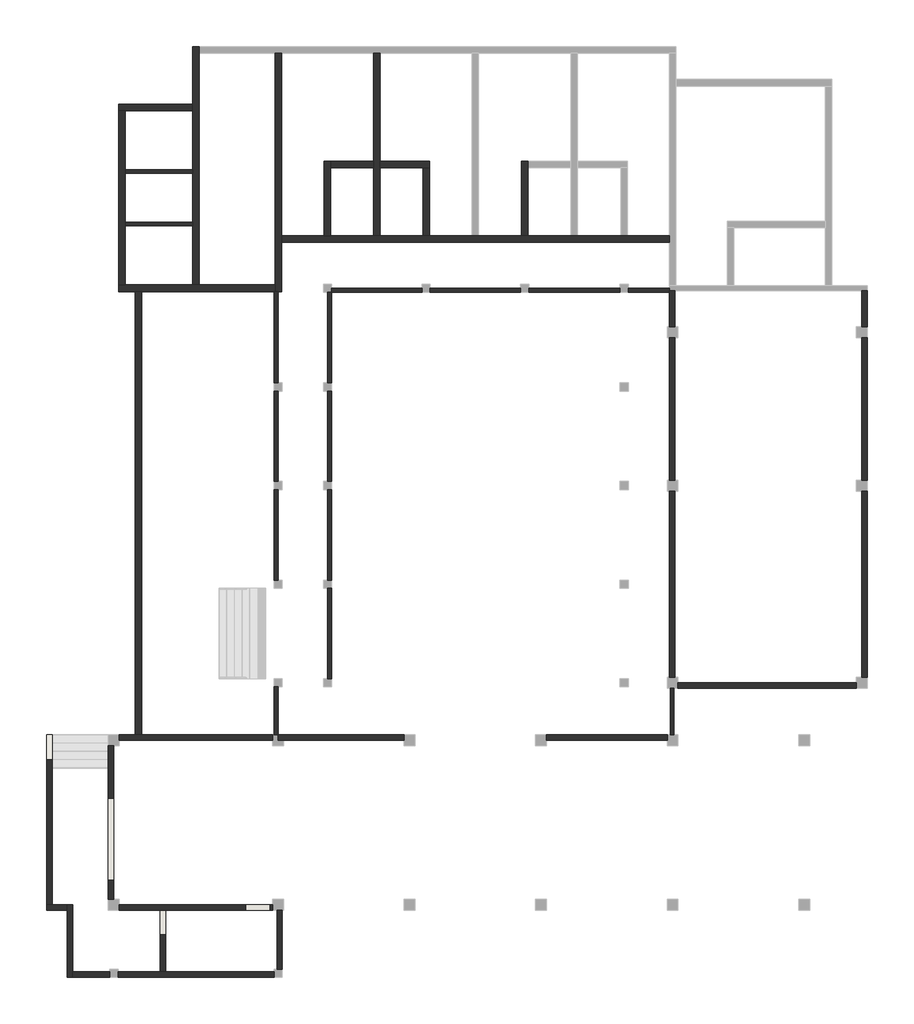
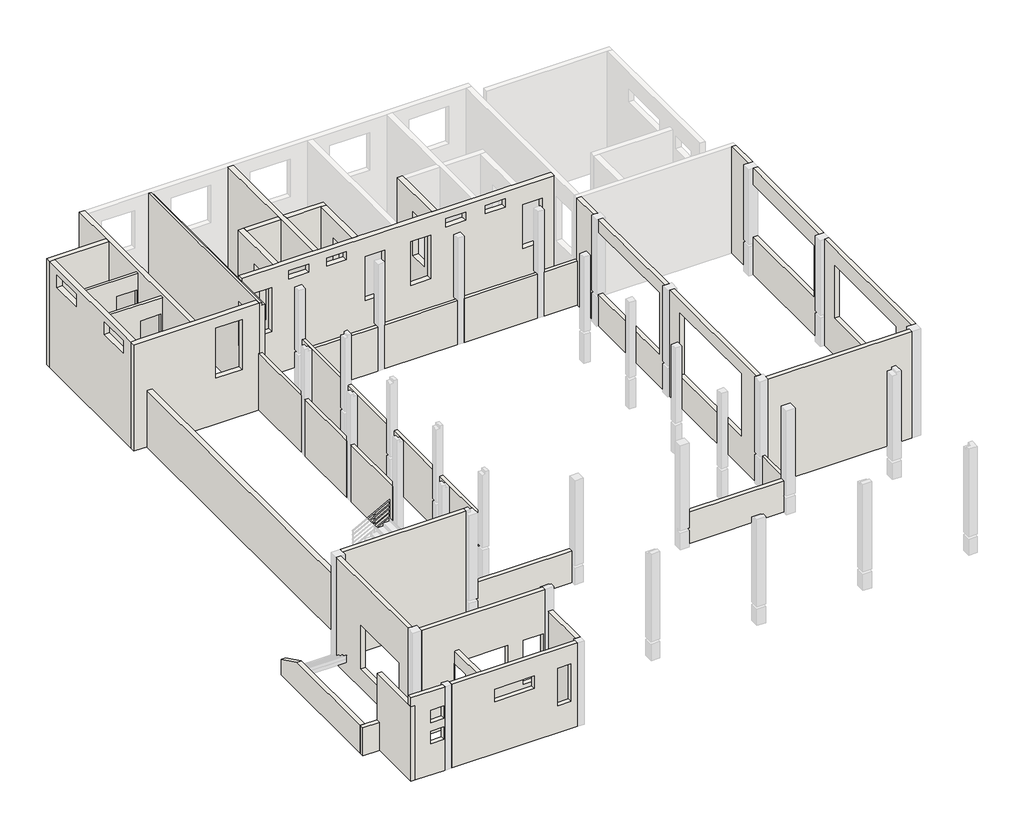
# One storey, part 1 of 3: 33 walls.
"""IFC4 building model written with IfcOpenShell, lengths in millimetres."""

from ifc_helpers import new_model, si_unit, frame, origin, place, context, project, spatial, polyline, outline, extrude, faceted_brep, element, save

model = new_model("IFC4")

# Units and contexts
model_context = context("Model", 3, world=origin())
ifc_project = project(units=[si_unit("LENGTHUNIT", "METRE", prefix="MILLI")], contexts=[model_context])

# Site, building, storey
site = spatial("IfcSite", under=ifc_project)
building = spatial("IfcBuilding", under=site)
storey = spatial("IfcBuildingStorey", under=building, Name="室外地坪", Elevation=-900.0)

# Walls
placement = place(None, origin())
element("IfcWall", 1, ObjectType="240mm厚墙", at=placement, inside=storey, context=model_context, shape_type="Brep", body=[
    faceted_brep([(-8683.2622628, 23524.1658649, -900.0), (-8443.2622628, 23524.1658649, -900.0), (-5983.2622628, 23524.1658649, -900.0), (-5983.2622628, 23524.1658649, 4200.0), (-8443.2622628, 23524.1658649, 4200.0), (-8683.2622628, 23524.1658649, 4200.0), (-8683.2622628, 23764.1658649, -900.0), (-8683.2622628, 23764.1658649, 4200.0), (-5983.2622628, 23764.1658649, 4200.0), (-5983.2622628, 23764.1658649, -900.0)], [[[0, 1, 2, 3, 4, 5]], [[6, 7, 8, 9]], [[2, 1, 0, 6, 9]], [[5, 4, 3, 8, 7]], [[3, 2, 9, 8]], [[0, 5, 7, 6]]]),
])
element("IfcWall", 2, ObjectType="240mm厚墙", at=placement, inside=storey, context=model_context, shape_type="Brep", body=[
    faceted_brep([(-5743.2622628, 17164.1658649, -900.0), (-5743.2622628, 25624.1658649, -900.0), (-5743.2622628, 25864.1658649, -900.0), (-5743.2622628, 25864.1658649, 4200.0), (-5743.2622628, 25624.1658649, 4200.0), (-5743.2622628, 17164.1658649, 4200.0), (-5983.2622628, 17164.1658649, -900.0), (-5983.2622628, 17164.1658649, 4200.0), (-5983.2622628, 23524.1658649, 4200.0), (-5983.2622628, 23764.1658649, 4200.0), (-5983.2622628, 25864.1658649, 4200.0), (-5983.2622628, 25864.1658649, -900.0), (-5983.2622628, 23764.1658649, -900.0), (-5983.2622628, 23524.1658649, -900.0), (-5983.2622628, 21364.1658649, -900.0), (-5983.2622628, 21244.1658649, -900.0), (-5983.2622628, 19444.1658649, -900.0), (-5983.2622628, 19324.1658649, -900.0)], [[[0, 1, 2, 3, 4, 5]], [[6, 7, 8, 9, 10, 11, 12, 13, 14, 15, 16, 17]], [[2, 1, 0, 6, 17, 16, 15, 14, 13, 12, 11]], [[5, 4, 3, 10, 9, 8, 7]], [[3, 2, 11, 10]], [[0, 5, 7, 6]]]),
])
element("IfcWall", 3, ObjectType="240mm厚墙", at=placement, inside=storey, context=model_context, shape_type="Brep", body=[
    faceted_brep([(-2983.2622628, 17164.1658649, 4200.0), (-2983.2622628, 17164.1658649, -900.0), (-5743.2622628, 17164.1658649, -900.0), (-5983.2622628, 17164.1658649, -900.0), (-8443.2622628, 17164.1658649, -900.0), (-8683.2622628, 17164.1658649, -900.0), (-8683.2622628, 17164.1658649, 4200.0), (-8443.2622628, 17164.1658649, 4200.0), (-5983.2622628, 17164.1658649, 4200.0), (-5743.2622628, 17164.1658649, 4200.0), (-4963.2622628, 17164.1658649, 1300.0), (-3763.2622628, 17164.1658649, 1300.0), (-3763.2622628, 17164.1658649, 3700.0), (-4963.2622628, 17164.1658649, 3700.0), (-2983.2622628, 16924.1658649, -900.0), (-2983.2622628, 16924.1658649, 4200.0), (-5743.2622628, 16924.1658649, 4200.0), (-8683.2622628, 16924.1658649, 4200.0), (-8683.2622628, 16924.1658649, -900.0), (-8083.2622628, 16924.1658649, -900.0), (-7843.2622628, 16924.1658649, -900.0), (-3013.2622628, 16924.1658649, -900.0), (-4963.2622628, 16924.1658649, 1300.0), (-4963.2622628, 16924.1658649, 3700.0), (-3763.2622628, 16924.1658649, 3700.0), (-3763.2622628, 16924.1658649, 1300.0)], [[[0, 1, 2, 3, 4, 5, 6, 7, 8, 9], [10, 11, 12, 13]], [[14, 15, 16, 17, 18, 19, 20, 21], [22, 23, 24, 25]], [[5, 4, 3, 2, 1, 14, 21, 20, 19, 18]], [[0, 9, 8, 7, 6, 17, 16, 15]], [[6, 5, 18, 17]], [[0, 15, 14, 1]], [[23, 22, 10, 13]], [[24, 23, 13, 12]], [[25, 24, 12, 11]], [[22, 25, 11, 10]]]),
])
element("IfcWall", 4, ObjectType="240mm厚墙", at=placement, inside=storey, context=model_context, shape_type="Brep", body=[
    faceted_brep([(-8443.2622628, 17164.1658649, -900.0), (-8443.2622628, 19324.1658649, -900.0), (-8443.2622628, 19444.1658649, -900.0), (-8443.2622628, 21244.1658649, -900.0), (-8443.2622628, 21364.1658649, -900.0), (-8443.2622628, 23524.1658649, -900.0), (-8443.2622628, 23524.1658649, 4200.0), (-8443.2622628, 17164.1658649, 4200.0), (-8443.2622628, 21444.1658649, 3300.0), (-8443.2622628, 21444.1658649, 3900.0), (-8443.2622628, 22944.1658649, 3900.0), (-8443.2622628, 22944.1658649, 3300.0), (-8443.2622628, 17744.1658649, 3300.0), (-8443.2622628, 17744.1658649, 3900.0), (-8443.2622628, 19244.1658649, 3900.0), (-8443.2622628, 19244.1658649, 3300.0), (-8683.2622628, 17164.1658649, -900.0), (-8683.2622628, 17164.1658649, 4200.0), (-8683.2622628, 23524.1658649, 4200.0), (-8683.2622628, 23524.1658649, -900.0), (-8683.2622628, 21444.1658649, 3300.0), (-8683.2622628, 22944.1658649, 3300.0), (-8683.2622628, 22944.1658649, 3900.0), (-8683.2622628, 21444.1658649, 3900.0), (-8683.2622628, 17744.1658649, 3300.0), (-8683.2622628, 19244.1658649, 3300.0), (-8683.2622628, 19244.1658649, 3900.0), (-8683.2622628, 17744.1658649, 3900.0)], [[[0, 1, 2, 3, 4, 5, 6, 7], [8, 9, 10, 11], [12, 13, 14, 15]], [[16, 17, 18, 19], [20, 21, 22, 23], [24, 25, 26, 27]], [[5, 4, 3, 2, 1, 0, 16, 19]], [[7, 6, 18, 17]], [[6, 5, 19, 18]], [[0, 7, 17, 16]], [[9, 8, 20, 23]], [[10, 9, 23, 22]], [[11, 10, 22, 21]], [[8, 11, 21, 20]], [[13, 12, 24, 27]], [[14, 13, 27, 26]], [[15, 14, 26, 25]], [[12, 15, 25, 24]]]),
])
element("IfcWall", 5, ObjectType="240mm厚墙", at=placement, inside=storey, context=model_context, shape_type="Brep", body=[
    faceted_brep([(616.7377372, 25624.1658649, -900.0), (616.7377372, 21684.1658649, -900.0), (616.7377372, 21444.1658649, -900.0), (616.7377372, 18964.1658649, -900.0), (616.7377372, 18964.1658649, 4200.0), (616.7377372, 21444.1658649, 4200.0), (616.7377372, 21684.1658649, 4200.0), (616.7377372, 25624.1658649, 4200.0), (856.7377372, 25624.1658649, -900.0), (856.7377372, 25624.1658649, 4200.0), (856.7377372, 21684.1658649, 4200.0), (856.7377372, 21444.1658649, 4200.0), (856.7377372, 18964.1658649, 4200.0), (856.7377372, 18964.1658649, -900.0), (856.7377372, 21444.1658649, -900.0), (856.7377372, 21684.1658649, -900.0)], [[[0, 1, 2, 3, 4, 5, 6, 7]], [[8, 9, 10, 11, 12, 13, 14, 15]], [[3, 2, 1, 0, 8, 15, 14, 13]], [[7, 6, 5, 4, 12, 11, 10, 9]], [[0, 7, 9, 8]], [[4, 3, 13, 12]]]),
])
element("IfcWall", 6, ObjectType="240mm厚墙", at=placement, inside=storey, context=model_context, shape_type="Brep", body=[
    faceted_brep([(-2743.2622628, 18724.1658649, -900.0), (11416.7377372, 18724.1658649, -900.0), (11416.7377372, 18724.1658649, 4200.0), (-2743.2622628, 18724.1658649, 4200.0), (-1378.2622628, 18724.1658649, 1200.0), (-2278.2622628, 18724.1658649, 1200.0), (-2278.2622628, 18724.1658649, 3300.0), (-1378.2622628, 18724.1658649, 3300.0), (5821.7377372, 18724.1658649, 1200.0), (4921.7377372, 18724.1658649, 1200.0), (4921.7377372, 18724.1658649, 3300.0), (5821.7377372, 18724.1658649, 3300.0), (9986.7377372, 18724.1658649, 1200.0), (9986.7377372, 18724.1658649, 3300.0), (10886.7377372, 18724.1658649, 3300.0), (10886.7377372, 18724.1658649, 1200.0), (2851.7377372, 18724.1658649, 1200.0), (2851.7377372, 18724.1658649, 3300.0), (3751.7377372, 18724.1658649, 3300.0), (3751.7377372, 18724.1658649, 1200.0), (286.7377372, 18724.1658649, 3850.0), (286.7377372, 18724.1658649, 3450.0), (-613.2622628, 18724.1658649, 3450.0), (-613.2622628, 18724.1658649, 3850.0), (2001.7377372, 18724.1658649, 3850.0), (2001.7377372, 18724.1658649, 3450.0), (1101.7377372, 18724.1658649, 3450.0), (1101.7377372, 18724.1658649, 3850.0), (7401.7377372, 18724.1658649, 3850.0), (7401.7377372, 18724.1658649, 3450.0), (6501.7377372, 18724.1658649, 3450.0), (6501.7377372, 18724.1658649, 3850.0), (9201.7377372, 18724.1658649, 3850.0), (9201.7377372, 18724.1658649, 3450.0), (8301.7377372, 18724.1658649, 3450.0), (8301.7377372, 18724.1658649, 3850.0), (11416.7377372, 18964.1658649, -900.0), (9886.7377372, 18964.1658649, -900.0), (9646.7377372, 18964.1658649, -900.0), (8056.7377372, 18964.1658649, -900.0), (7816.7377372, 18964.1658649, -900.0), (6256.7377372, 18964.1658649, -900.0), (6016.7377372, 18964.1658649, -900.0), (4456.7377372, 18964.1658649, -900.0), (4216.7377372, 18964.1658649, -900.0), (2656.7377372, 18964.1658649, -900.0), (2416.7377372, 18964.1658649, -900.0), (856.7377372, 18964.1658649, -900.0), (616.7377372, 18964.1658649, -900.0), (-943.2622628, 18964.1658649, -900.0), (-1183.2622628, 18964.1658649, -900.0), (-2743.2622628, 18964.1658649, -900.0), (-2743.2622628, 18964.1658649, 4200.0), (-1183.2622628, 18964.1658649, 4200.0), (-943.2622628, 18964.1658649, 4200.0), (616.7377372, 18964.1658649, 4200.0), (856.7377372, 18964.1658649, 4200.0), (2416.7377372, 18964.1658649, 4200.0), (2656.7377372, 18964.1658649, 4200.0), (4216.7377372, 18964.1658649, 4200.0), (4456.7377372, 18964.1658649, 4200.0), (6016.7377372, 18964.1658649, 4200.0), (6256.7377372, 18964.1658649, 4200.0), (7816.7377372, 18964.1658649, 4200.0), (8056.7377372, 18964.1658649, 4200.0), (9646.7377372, 18964.1658649, 4200.0), (9886.7377372, 18964.1658649, 4200.0), (11416.7377372, 18964.1658649, 4200.0), (-1378.2622628, 18964.1658649, 1200.0), (-1378.2622628, 18964.1658649, 3300.0), (-2278.2622628, 18964.1658649, 3300.0), (-2278.2622628, 18964.1658649, 1200.0), (5821.7377372, 18964.1658649, 1200.0), (5821.7377372, 18964.1658649, 3300.0), (4921.7377372, 18964.1658649, 3300.0), (4921.7377372, 18964.1658649, 1200.0), (9986.7377372, 18964.1658649, 1200.0), (10886.7377372, 18964.1658649, 1200.0), (10886.7377372, 18964.1658649, 3300.0), (9986.7377372, 18964.1658649, 3300.0), (2851.7377372, 18964.1658649, 1200.0), (3751.7377372, 18964.1658649, 1200.0), (3751.7377372, 18964.1658649, 3300.0), (2851.7377372, 18964.1658649, 3300.0), (286.7377372, 18964.1658649, 3450.0), (286.7377372, 18964.1658649, 3850.0), (-613.2622628, 18964.1658649, 3850.0), (-613.2622628, 18964.1658649, 3450.0), (2001.7377372, 18964.1658649, 3450.0), (2001.7377372, 18964.1658649, 3850.0), (1101.7377372, 18964.1658649, 3850.0), (1101.7377372, 18964.1658649, 3450.0), (7401.7377372, 18964.1658649, 3450.0), (7401.7377372, 18964.1658649, 3850.0), (6501.7377372, 18964.1658649, 3850.0), (6501.7377372, 18964.1658649, 3450.0), (9201.7377372, 18964.1658649, 3450.0), (9201.7377372, 18964.1658649, 3850.0), (8301.7377372, 18964.1658649, 3850.0), (8301.7377372, 18964.1658649, 3450.0)], [[[0, 1, 2, 3], [4, 5, 6, 7], [8, 9, 10, 11], [12, 13, 14, 15], [16, 17, 18, 19], [20, 21, 22, 23], [24, 25, 26, 27], [28, 29, 30, 31], [32, 33, 34, 35]], [[36, 37, 38, 39, 40, 41, 42, 43, 44, 45, 46, 47, 48, 49, 50, 51, 52, 53, 54, 55, 56, 57, 58, 59, 60, 61, 62, 63, 64, 65, 66, 67], [68, 69, 70, 71], [72, 73, 74, 75], [76, 77, 78, 79], [80, 81, 82, 83], [84, 85, 86, 87], [88, 89, 90, 91], [92, 93, 94, 95], [96, 97, 98, 99]], [[1, 0, 51, 50, 49, 48, 47, 46, 45, 44, 43, 42, 41, 40, 39, 38, 37, 36]], [[3, 2, 67, 66, 65, 64, 63, 62, 61, 60, 59, 58, 57, 56, 55, 54, 53, 52]], [[2, 1, 36, 67]], [[0, 3, 52, 51]], [[5, 4, 68, 71]], [[6, 5, 71, 70]], [[7, 6, 70, 69]], [[4, 7, 69, 68]], [[9, 8, 72, 75]], [[10, 9, 75, 74]], [[11, 10, 74, 73]], [[8, 11, 73, 72]], [[77, 76, 12, 15]], [[78, 77, 15, 14]], [[79, 78, 14, 13]], [[76, 79, 13, 12]], [[81, 80, 16, 19]], [[82, 81, 19, 18]], [[83, 82, 18, 17]], [[80, 83, 17, 16]], [[84, 21, 20, 85]], [[22, 87, 86, 23]], [[21, 84, 87, 22]], [[88, 25, 24, 89]], [[26, 91, 90, 27]], [[25, 88, 91, 26]], [[92, 29, 28, 93]], [[30, 95, 94, 31]], [[29, 92, 95, 30]], [[96, 33, 32, 97]], [[98, 35, 34, 99]], [[33, 96, 99, 34]], [[23, 86, 85, 20]], [[27, 90, 89, 24]], [[31, 94, 93, 28]], [[35, 98, 97, 32]]]),
])
element("IfcWall", 7, ObjectType="240mm厚墙", at=placement, inside=storey, context=model_context, shape_type="Brep", body=[
    faceted_brep([(-2983.2622628, 25624.1658649, -900.0), (-2983.2622628, 17164.1658649, -900.0), (-2983.2622628, 16924.1658649, -900.0), (-2983.2622628, 16924.1658649, 4200.0), (-2983.2622628, 17164.1658649, 4200.0), (-2983.2622628, 25624.1658649, 4200.0), (-2983.2622628, 17344.1658649, 3300.0), (-2983.2622628, 17344.1658649, 1200.0), (-2983.2622628, 18544.1658649, 1200.0), (-2983.2622628, 18544.1658649, 3300.0), (-2743.2622628, 16924.1658649, -900.0), (-2743.2622628, 18724.1658649, -900.0), (-2743.2622628, 18964.1658649, -900.0), (-2743.2622628, 25624.1658649, -900.0), (-2743.2622628, 25624.1658649, 4080.0), (-2743.2622628, 16924.1658649, 4080.0), (-2743.2622628, 17344.1658649, 1200.0), (-2743.2622628, 17344.1658649, 3300.0), (-2743.2622628, 18544.1658649, 3300.0), (-2743.2622628, 18544.1658649, 1200.0), (-2863.2622628, 16924.1658649, -900.0), (-2868.2622628, 16924.1658649, 4200.0), (-2868.2622628, 25624.1658649, 4200.0), (-2868.2622628, 25624.1658649, 4080.0), (-2868.2622628, 16924.1658649, 4080.0)], [[[0, 1, 2, 3, 4, 5], [6, 7, 8, 9]], [[10, 11, 12, 13, 14, 15], [16, 17, 18, 19]], [[2, 1, 0, 13, 12, 11, 10, 20]], [[5, 4, 3, 21, 22]], [[0, 5, 22, 23, 14, 13]], [[17, 16, 7, 6]], [[18, 17, 6, 9]], [[19, 18, 9, 8]], [[16, 19, 8, 7]], [[23, 24, 15, 14]], [[24, 23, 22, 21]], [[2, 20, 10, 15, 24, 21, 3]]]),
])
element("IfcWall", 8, ObjectType="200mm厚墙", at=placement, inside=storey, context=model_context, shape_type="Brep", body=[
    faceted_brep([(18436.7377372, 16944.1658649, 4200.0), (18436.7377372, 16944.1658649, -900.0), (18436.7377372, 15644.1658649, -900.0), (18436.7377372, 15644.1658649, 480.0), (18436.7377372, 15644.1658649, 600.0), (18436.7377372, 15644.1658649, 4200.0), (18636.7377372, 16944.1658649, -900.0), (18636.7377372, 16944.1658649, 4200.0), (18636.7377372, 15644.1658649, 4200.0), (18636.7377372, 15644.1658649, -900.0)], [[[0, 1, 2, 3, 4, 5]], [[6, 7, 8, 9]], [[1, 6, 9, 2]], [[7, 0, 5, 8]], [[1, 0, 7, 6]], [[5, 4, 3, 2, 9, 8]]]),
    faceted_brep([(18436.7377372, 9644.1658649, 4200.0), (18436.7377372, 9644.1658649, 600.0), (18436.7377372, 9644.1658649, 480.0), (18436.7377372, 9644.1658649, -900.0), (18436.7377372, 2844.1658649, -900.0), (18436.7377372, 2844.1658649, 480.0), (18436.7377372, 2844.1658649, 600.0), (18436.7377372, 2844.1658649, 4200.0), (18436.7377372, 8839.1658649, 900.0), (18436.7377372, 8839.1658649, 3400.0), (18436.7377372, 4039.1658649, 3400.0), (18436.7377372, 4039.1658649, 900.0), (18636.7377372, 9644.1658649, -900.0), (18636.7377372, 9644.1658649, 4200.0), (18636.7377372, 2844.1658649, 4200.0), (18636.7377372, 2844.1658649, -900.0), (18636.7377372, 8839.1658649, 3400.0), (18636.7377372, 8839.1658649, 900.0), (18636.7377372, 4039.1658649, 900.0), (18636.7377372, 4039.1658649, 3400.0)], [[[0, 1, 2, 3, 4, 5, 6, 7], [8, 9, 10, 11]], [[12, 13, 14, 15], [16, 17, 18, 19]], [[3, 12, 15, 4]], [[13, 0, 7, 14]], [[3, 2, 1, 0, 13, 12]], [[7, 6, 5, 4, 15, 14]], [[17, 16, 9, 8]], [[18, 17, 8, 11]], [[19, 18, 11, 10]], [[16, 19, 10, 9]]]),
    faceted_brep([(18436.7377372, 15244.1658649, 900.0), (18436.7377372, 15244.1658649, 600.0), (18436.7377372, 15244.1658649, 480.0), (18436.7377372, 15244.1658649, -900.0), (18436.7377372, 10044.1658649, -900.0), (18436.7377372, 10044.1658649, 480.0), (18436.7377372, 10044.1658649, 600.0), (18436.7377372, 10044.1658649, 4200.0), (18436.7377372, 15244.1658649, 4200.0), (18436.7377372, 15244.1658649, 3400.0), (18436.7377372, 10444.1658649, 3400.0), (18436.7377372, 10444.1658649, 900.0), (18636.7377372, 15244.1658649, 3400.0), (18636.7377372, 15244.1658649, 4200.0), (18636.7377372, 10044.1658649, 4200.0), (18636.7377372, 10044.1658649, -900.0), (18636.7377372, 15244.1658649, -900.0), (18636.7377372, 15244.1658649, 900.0), (18636.7377372, 10444.1658649, 900.0), (18636.7377372, 10444.1658649, 3400.0)], [[[0, 1, 2, 3, 4, 5, 6, 7, 8, 9, 10, 11]], [[12, 13, 14, 15, 16, 17, 18, 19]], [[3, 16, 15, 4]], [[13, 8, 7, 14]], [[13, 12, 9, 8]], [[3, 2, 1, 0, 17, 16]], [[7, 6, 5, 4, 15, 14]], [[18, 17, 0, 11]], [[19, 18, 11, 10]], [[12, 19, 10, 9]]]),
])
element("IfcWall", 9, ObjectType="200mm厚墙", at=placement, inside=storey, context=model_context, shape_type="Brep", body=[
    faceted_brep([(11736.7377372, 2444.1658649, 4200.0), (11736.7377372, 2444.1658649, -900.0), (18236.7377372, 2444.1658649, -900.0), (18236.7377372, 2444.1658649, 4200.0), (11736.7377372, 2644.1658649, -900.0), (11736.7377372, 2644.1658649, 480.0), (11736.7377372, 2644.1658649, 600.0), (11736.7377372, 2644.1658649, 4200.0), (18236.7377372, 2644.1658649, 4200.0), (18236.7377372, 2644.1658649, 600.0), (18236.7377372, 2644.1658649, 480.0), (18236.7377372, 2644.1658649, -900.0)], [[[0, 1, 2, 3]], [[4, 5, 6, 7, 8, 9, 10, 11]], [[1, 4, 11, 2]], [[7, 0, 3, 8]], [[1, 0, 7, 6, 5, 4]], [[3, 2, 11, 10, 9, 8]]]),
])
element("IfcWall", 10, ObjectType="200mm厚墙", at=placement, inside=storey, context=model_context, shape_type="SweptSolid", body=[
    extrude(outline(polyline([(-2713.2622628, -7805.8341351), (-2913.2622628, -7805.8341351), (-2913.2622628, -5655.8341351), (-2713.2622628, -5655.8341351), (-2713.2622628, -7805.8341351)])), frame((0.0, 0.0, -900.0), z_axis=(0.0, 0.0, 1.0), x_axis=(1.0, 0.0, 0.0)), (0.0, 0.0, 1.0), 4000.0),
])
element("IfcWall", 11, ObjectType="200mm厚墙", at=placement, inside=storey, context=model_context, shape_type="Brep", body=[
    faceted_brep([(-8663.2622628, -5455.8341351, -900.0), (-8663.2622628, -5455.8341351, 4200.0), (-3063.2622628, -5455.8341351, 4200.0), (-3063.2622628, -5455.8341351, -900.0), (-4058.2622628, -5455.8341351, 0.0), (-3158.2622628, -5455.8341351, 0.0), (-3158.2622628, -5455.8341351, 2100.0), (-4058.2622628, -5455.8341351, 2100.0), (-4763.2622628, -5455.8341351, 600.0), (-4763.2622628, -5455.8341351, 2100.0), (-7163.2622628, -5455.8341351, 2100.0), (-7163.2622628, -5455.8341351, 600.0), (-8663.2622628, -5655.8341351, 4200.0), (-8663.2622628, -5655.8341351, 0.0), (-8663.2622628, -5655.8341351, -120.0), (-8663.2622628, -5655.8341351, -900.0), (-7173.2622628, -5655.8341351, -900.0), (-6973.2622628, -5655.8341351, -900.0), (-3063.2622628, -5655.8341351, -900.0), (-3063.2622628, -5655.8341351, -120.0), (-3063.2622628, -5655.8341351, 0.0), (-3063.2622628, -5655.8341351, 4200.0), (-3158.2622628, -5655.8341351, 0.0), (-4058.2622628, -5655.8341351, 0.0), (-4058.2622628, -5655.8341351, 2100.0), (-3158.2622628, -5655.8341351, 2100.0), (-7173.2622628, -5655.8341351, 0.0), (-7173.2622628, -5655.8341351, 2100.0), (-6973.2622628, -5655.8341351, 2100.0), (-4763.2622628, -5655.8341351, 2100.0), (-4763.2622628, -5655.8341351, 600.0), (-6973.2622628, -5655.8341351, 600.0), (-6973.2622628, -5655.8341351, 0.0), (-3063.2622628, -5460.8341351, 4200.0), (-6973.2622628, -5650.8341351, 0.0), (-6973.2622628, -5650.8341351, 600.0), (-7173.2622628, -5650.8341351, 0.0), (-7173.2622628, -5650.8341351, 2100.0), (-7163.2622628, -5650.8341351, 600.0), (-7163.2622628, -5650.8341351, 2100.0)], [[[0, 1, 2, 3], [4, 5, 6, 7], [8, 9, 10, 11]], [[12, 13, 14, 15, 16, 17, 18, 19, 20, 21], [22, 23, 24, 25], [26, 27, 28, 29, 30, 31, 32]], [[15, 0, 3, 18, 17, 16]], [[1, 12, 21, 33, 2]], [[1, 0, 15, 14, 13, 12]], [[3, 2, 33, 21, 20, 19, 18]], [[5, 4, 23, 22]], [[6, 5, 22, 25]], [[7, 6, 25, 24]], [[4, 7, 24, 23]], [[34, 32, 31, 35]], [[36, 37, 27, 26]], [[34, 36, 26, 32]], [[37, 36, 34, 35, 38, 39]], [[27, 37, 39, 10, 9, 29, 28]], [[29, 9, 8, 30]], [[30, 8, 11, 38, 35, 31]], [[38, 11, 10, 39]]]),
])
element("IfcWall", 12, ObjectType="200mm厚墙", at=placement, inside=storey, context=model_context, shape_type="Brep", body=[
    faceted_brep([(-10563.2622628, -5455.8341351, 2680.0), (-10563.2622628, -5455.8341351, 450.0), (-10563.2622628, -5455.8341351, -900.0), (-10563.2622628, -5655.8341351, -900.0), (-10563.2622628, -8105.8341351, -900.0), (-10563.2622628, -8105.8341351, 2680.0), (-10563.2622628, -7905.8341351, 2680.0), (-10363.2622628, -5455.8341351, -900.0), (-10363.2622628, -5455.8341351, 0.0), (-10363.2622628, -5455.8341351, 2680.0), (-10363.2622628, -5655.8341351, 2680.0), (-10363.2622628, -7905.8341351, 2680.0), (-10363.2622628, -8105.8341351, 2680.0), (-10363.2622628, -8105.8341351, -900.0), (-10363.2622628, -7905.8341351, -900.0)], [[[0, 1, 2, 3, 4, 5, 6]], [[7, 8, 9, 10, 11, 12, 13, 14]], [[4, 3, 2, 7, 14, 13]], [[0, 6, 5, 12, 11, 10, 9]], [[5, 4, 13, 12]], [[0, 9, 8, 7, 2, 1]]]),
])
element("IfcWall", 13, ObjectType="200mm厚墙", at=placement, inside=storey, context=model_context, shape_type="Brep", body=[
    faceted_brep([(-3013.2622628, -8105.8341351, -900.0), (-3013.2622628, -8105.8341351, 3100.0), (-8713.2622628, -8105.8341351, 3100.0), (-8713.2622628, -8105.8341351, -900.0), (-6773.2622628, -8105.8341351, 1600.0), (-6773.2622628, -8105.8341351, 2200.0), (-4973.2622628, -8105.8341351, 2200.0), (-4973.2622628, -8105.8341351, 1600.0), (-3913.2622628, -8105.8341351, 400.0), (-3913.2622628, -8105.8341351, 2200.0), (-3313.2622628, -8105.8341351, 2200.0), (-3313.2622628, -8105.8341351, 400.0), (-3013.2622628, -7905.8341351, 3100.0), (-3013.2622628, -7905.8341351, -900.0), (-6973.2622628, -7905.8341351, -900.0), (-7173.2622628, -7905.8341351, -900.0), (-8713.2622628, -7905.8341351, -900.0), (-8713.2622628, -7905.8341351, 3100.0), (-6773.2622628, -7905.8341351, 2200.0), (-6773.2622628, -7905.8341351, 1600.0), (-4973.2622628, -7905.8341351, 1600.0), (-4973.2622628, -7905.8341351, 2200.0), (-3913.2622628, -7905.8341351, 2200.0), (-3913.2622628, -7905.8341351, 400.0), (-3313.2622628, -7905.8341351, 400.0), (-3313.2622628, -7905.8341351, 2200.0)], [[[0, 1, 2, 3], [4, 5, 6, 7], [8, 9, 10, 11]], [[12, 13, 14, 15, 16, 17], [18, 19, 20, 21], [22, 23, 24, 25]], [[13, 0, 3, 16, 15, 14]], [[1, 12, 17, 2]], [[1, 0, 13, 12]], [[3, 2, 17, 16]], [[5, 4, 19, 18]], [[6, 5, 18, 21]], [[7, 6, 21, 20]], [[4, 7, 20, 19]], [[8, 23, 22, 9]], [[24, 11, 10, 25]], [[23, 8, 11, 24]], [[25, 10, 9, 22]]]),
    faceted_brep([(-10563.2622628, -8105.8341351, 2680.0), (-10363.2622628, -8105.8341351, 2680.0), (-10363.2622628, -8105.8341351, -900.0), (-9013.2622628, -8105.8341351, -900.0), (-9013.2622628, -8105.8341351, 3100.0), (-10563.2622628, -8105.8341351, 3100.0), (-9068.2622628, -8105.8341351, 1200.0), (-9068.2622628, -8105.8341351, 600.0), (-9668.2622628, -8105.8341351, 600.0), (-9668.2622628, -8105.8341351, 1200.0), (-9668.2622628, -8105.8341351, 1600.0), (-9668.2622628, -8105.8341351, 2200.0), (-9068.2622628, -8105.8341351, 2200.0), (-9068.2622628, -8105.8341351, 1600.0), (-10363.2622628, -7905.8341351, 2680.0), (-10563.2622628, -7905.8341351, 2680.0), (-10563.2622628, -7905.8341351, 3100.0), (-10363.2622628, -7905.8341351, 3100.0), (-9013.2622628, -7905.8341351, 3100.0), (-9013.2622628, -7905.8341351, -900.0), (-10363.2622628, -7905.8341351, -900.0), (-9068.2622628, -7905.8341351, 600.0), (-9068.2622628, -7905.8341351, 1200.0), (-9668.2622628, -7905.8341351, 1200.0), (-9668.2622628, -7905.8341351, 600.0), (-9668.2622628, -7905.8341351, 2200.0), (-9668.2622628, -7905.8341351, 1600.0), (-9068.2622628, -7905.8341351, 1600.0), (-9068.2622628, -7905.8341351, 2200.0)], [[[0, 1, 2, 3, 4, 5], [6, 7, 8, 9], [10, 11, 12, 13]], [[14, 15, 16, 17, 18, 19, 20], [21, 22, 23, 24], [25, 26, 27, 28]], [[2, 20, 19, 3]], [[16, 5, 4, 18, 17]], [[4, 3, 19, 18]], [[22, 21, 7, 6]], [[23, 22, 6, 9]], [[24, 23, 9, 8]], [[21, 24, 8, 7]], [[10, 26, 25, 11]], [[11, 25, 28, 12]], [[27, 13, 12, 28]], [[13, 27, 26, 10]], [[15, 14, 1, 0]], [[20, 2, 1, 14]], [[5, 16, 15, 0]]]),
])
element("IfcWall", 14, ObjectType="200mm厚墙", at=placement, inside=storey, context=model_context, shape_type="Brep", body=[
    faceted_brep([(-9063.2622628, 344.1658649, 4200.0), (-9063.2622628, 344.1658649, -900.0), (-9063.2622628, -5255.8341351, -900.0), (-9063.2622628, -5255.8341351, -120.0), (-9063.2622628, -5255.8341351, 0.0), (-9063.2622628, -5255.8341351, 4200.0), (-9063.2622628, -4560.8341351, 2100.0), (-9063.2622628, -4560.8341351, 0.0), (-9063.2622628, -1560.8341351, 0.0), (-9063.2622628, -1560.8341351, 2100.0), (-8863.2622628, 344.1658649, -900.0), (-8863.2622628, 344.1658649, -120.0), (-8863.2622628, 344.1658649, 0.0), (-8863.2622628, 344.1658649, 4200.0), (-8863.2622628, -5255.8341351, 4200.0), (-8863.2622628, -5255.8341351, -900.0), (-8863.2622628, -4560.8341351, 0.0), (-8863.2622628, -4560.8341351, 2100.0), (-8863.2622628, -1560.8341351, 2100.0), (-8863.2622628, -1560.8341351, 0.0)], [[[0, 1, 2, 3, 4, 5], [6, 7, 8, 9]], [[10, 11, 12, 13, 14, 15], [16, 17, 18, 19]], [[1, 10, 15, 2]], [[13, 0, 5, 14]], [[1, 0, 13, 12, 11, 10]], [[5, 4, 3, 2, 15, 14]], [[17, 16, 7, 6]], [[18, 17, 6, 9]], [[19, 18, 9, 8]], [[16, 19, 8, 7]]]),
])
element("IfcWall", 15, ObjectType="240mm厚墙", at=placement, inside=storey, context=model_context, shape_type="Brep", body=[
    faceted_brep([(-8083.2622628, 16924.1658649, -900.0), (-8083.2622628, 744.1658649, -900.0), (-8083.2622628, 744.1658649, 1800.0), (-8083.2622628, 16924.1658649, 1800.0), (-7843.2622628, 16924.1658649, -900.0), (-7843.2622628, 16924.1658649, -570.0), (-7843.2622628, 16924.1658649, -450.0), (-7843.2622628, 16924.1658649, 1800.0), (-7843.2622628, 744.1658649, 1800.0), (-7843.2622628, 744.1658649, -450.0), (-7843.2622628, 744.1658649, -570.0), (-7843.2622628, 744.1658649, -900.0)], [[[0, 1, 2, 3]], [[4, 5, 6, 7, 8, 9, 10, 11]], [[1, 0, 4, 11]], [[3, 2, 8, 7]], [[0, 3, 7, 6, 5, 4]], [[2, 1, 11, 10, 9, 8]]]),
])
element("IfcWall", 16, ObjectType="150mm厚墙", at=placement, inside=storey, context=model_context, shape_type="Brep", body=[
    faceted_brep([(-1063.2622628, 6094.1658649, 1800.0), (-1063.2622628, 6094.1658649, -900.0), (-1063.2622628, 2794.1658649, -900.0), (-1063.2622628, 2794.1658649, 1800.0), (-913.2622628, 6094.1658649, -900.0), (-913.2622628, 6094.1658649, 480.0), (-913.2622628, 6094.1658649, 600.0), (-913.2622628, 6094.1658649, 1800.0), (-913.2622628, 2794.1658649, 1800.0), (-913.2622628, 2794.1658649, 600.0), (-913.2622628, 2794.1658649, 480.0), (-913.2622628, 2794.1658649, -900.0)], [[[0, 1, 2, 3]], [[4, 5, 6, 7, 8, 9, 10, 11]], [[1, 4, 11, 2]], [[7, 0, 3, 8]], [[1, 0, 7, 6, 5, 4]], [[3, 2, 11, 10, 9, 8]]]),
    faceted_brep([(-1063.2622628, 6394.1658649, -900.0), (-1063.2622628, 6394.1658649, 1800.0), (-1063.2622628, 9694.1658649, 1800.0), (-1063.2622628, 9694.1658649, -900.0), (-913.2622628, 6394.1658649, 1800.0), (-913.2622628, 6394.1658649, 600.0), (-913.2622628, 6394.1658649, 480.0), (-913.2622628, 6394.1658649, -900.0), (-913.2622628, 9694.1658649, -900.0), (-913.2622628, 9694.1658649, 480.0), (-913.2622628, 9694.1658649, 600.0), (-913.2622628, 9694.1658649, 1800.0)], [[[0, 1, 2, 3]], [[4, 5, 6, 7, 8, 9, 10, 11]], [[7, 0, 3, 8]], [[1, 4, 11, 2]], [[1, 0, 7, 6, 5, 4]], [[3, 2, 11, 10, 9, 8]]]),
    faceted_brep([(-1063.2622628, 9994.1658649, -900.0), (-1063.2622628, 9994.1658649, 1800.0), (-1063.2622628, 13294.1658649, 1800.0), (-1063.2622628, 13294.1658649, -900.0), (-913.2622628, 9994.1658649, 1800.0), (-913.2622628, 9994.1658649, 600.0), (-913.2622628, 9994.1658649, 480.0), (-913.2622628, 9994.1658649, -900.0), (-913.2622628, 13294.1658649, -900.0), (-913.2622628, 13294.1658649, 480.0), (-913.2622628, 13294.1658649, 600.0), (-913.2622628, 13294.1658649, 1800.0)], [[[0, 1, 2, 3]], [[4, 5, 6, 7, 8, 9, 10, 11]], [[7, 0, 3, 8]], [[1, 4, 11, 2]], [[1, 0, 7, 6, 5, 4]], [[3, 2, 11, 10, 9, 8]]]),
    faceted_brep([(-1063.2622628, 13594.1658649, -900.0), (-1063.2622628, 13594.1658649, 1800.0), (-1063.2622628, 16894.1658649, 1800.0), (-1063.2622628, 16894.1658649, 1200.0), (-1063.2622628, 16894.1658649, 1080.0), (-1063.2622628, 16894.1658649, -900.0), (-913.2622628, 13594.1658649, 1800.0), (-913.2622628, 13594.1658649, 600.0), (-913.2622628, 13594.1658649, 480.0), (-913.2622628, 13594.1658649, -900.0), (-913.2622628, 16894.1658649, -900.0), (-913.2622628, 16894.1658649, 1800.0)], [[[0, 1, 2, 3, 4, 5]], [[6, 7, 8, 9, 10, 11]], [[9, 0, 5, 10]], [[1, 6, 11, 2]], [[1, 0, 9, 8, 7, 6]], [[5, 4, 3, 2, 11, 10]]]),
])
element("IfcWall", 17, ObjectType="150mm厚墙", at=placement, inside=storey, context=model_context, shape_type="Brep", body=[
    faceted_brep([(-2863.2622628, 6394.1658649, 1800.0), (-2863.2622628, 6394.1658649, -900.0), (-2863.2622628, 9694.1658649, -900.0), (-2863.2622628, 9694.1658649, 1800.0), (-3013.2622628, 6394.1658649, -900.0), (-3013.2622628, 6394.1658649, 1800.0), (-3013.2622628, 9694.1658649, 1800.0), (-3013.2622628, 9694.1658649, -900.0)], [[[0, 1, 2, 3]], [[4, 5, 6, 7]], [[1, 4, 7, 2]], [[5, 0, 3, 6]], [[1, 0, 5, 4]], [[3, 2, 7, 6]]]),
    faceted_brep([(-2863.2622628, 16924.1658649, -900.0), (-2863.2622628, 16924.1658649, 1800.0), (-2863.2622628, 13594.1658649, 1800.0), (-2863.2622628, 13594.1658649, -900.0), (-3013.2622628, 16924.1658649, 1800.0), (-3013.2622628, 16924.1658649, -900.0), (-3013.2622628, 13594.1658649, -900.0), (-3013.2622628, 13594.1658649, 1800.0), (-2983.2622628, 16924.1658649, -900.0)], [[[0, 1, 2, 3]], [[4, 5, 6, 7]], [[5, 8, 0, 3, 6]], [[1, 4, 7, 2]], [[1, 0, 8, 5, 4]], [[3, 2, 7, 6]]]),
    faceted_brep([(-2863.2622628, 13294.1658649, -900.0), (-2863.2622628, 13294.1658649, 1800.0), (-2863.2622628, 9994.1658649, 1800.0), (-2863.2622628, 9994.1658649, -900.0), (-3013.2622628, 13294.1658649, 1800.0), (-3013.2622628, 13294.1658649, -900.0), (-3013.2622628, 9994.1658649, -900.0), (-3013.2622628, 9994.1658649, 1800.0)], [[[0, 1, 2, 3]], [[4, 5, 6, 7]], [[5, 0, 3, 6]], [[1, 4, 7, 2]], [[1, 0, 5, 4]], [[3, 2, 7, 6]]]),
])
element("IfcWall", 18, ObjectType="120mm厚墙", at=placement, inside=storey, context=model_context, shape_type="SweptSolid", body=[
    extrude(outline(polyline([(-900.0, -8443.2622628), (-900.0, -5983.2622628), (4080.0, -5983.2622628), (4080.0, -8443.2622628), (-900.0, -8443.2622628)]), holes=[polyline([(1200.0, -6058.2622628), (1200.0, -6958.2622628), (3300.0, -6958.2622628), (3300.0, -6058.2622628), (1200.0, -6058.2622628)])]), frame((0.0, 21244.1658649, 0.0), z_axis=(0.0, 1.0, 0.0), x_axis=(0.0, 0.0, 1.0)), (0.0, 0.0, 1.0), 120.0),
])
element("IfcWall", 19, ObjectType="120mm厚墙", at=placement, inside=storey, context=model_context, shape_type="SweptSolid", body=[
    extrude(outline(polyline([(-900.0, -8443.2622628), (-900.0, -5983.2622628), (4080.0, -5983.2622628), (4080.0, -8443.2622628), (-900.0, -8443.2622628)]), holes=[polyline([(1200.0, -6078.2622628), (1200.0, -6978.2622628), (3300.0, -6978.2622628), (3300.0, -6078.2622628), (1200.0, -6078.2622628)])]), frame((0.0, 19324.1658649, 0.0), z_axis=(0.0, 1.0, 0.0), x_axis=(0.0, 0.0, 1.0)), (0.0, 0.0, 1.0), 120.0),
])
element("IfcWall", 20, ObjectType="240mm厚墙", at=placement, inside=storey, context=model_context, shape_type="Brep", body=[
    faceted_brep([(-943.2622628, 18964.1658649, -900.0), (-943.2622628, 21444.1658649, -900.0), (-943.2622628, 21684.1658649, -900.0), (-943.2622628, 21684.1658649, 4200.0), (-943.2622628, 21444.1658649, 4200.0), (-943.2622628, 18964.1658649, 4200.0), (-943.2622628, 20459.1658649, 1200.0), (-943.2622628, 19559.1658649, 1200.0), (-943.2622628, 19559.1658649, 3300.0), (-943.2622628, 20459.1658649, 3300.0), (-1183.2622628, 18964.1658649, -900.0), (-1183.2622628, 18964.1658649, 4200.0), (-1183.2622628, 21684.1658649, 4200.0), (-1183.2622628, 21684.1658649, -900.0), (-1183.2622628, 20459.1658649, 1200.0), (-1183.2622628, 20459.1658649, 3300.0), (-1183.2622628, 19559.1658649, 3300.0), (-1183.2622628, 19559.1658649, 1200.0)], [[[0, 1, 2, 3, 4, 5], [6, 7, 8, 9]], [[10, 11, 12, 13], [14, 15, 16, 17]], [[2, 1, 0, 10, 13]], [[5, 4, 3, 12, 11]], [[0, 5, 11, 10]], [[3, 2, 13, 12]], [[7, 6, 14, 17]], [[8, 7, 17, 16]], [[9, 8, 16, 15]], [[6, 9, 15, 14]]]),
])
element("IfcWall", 21, ObjectType="240mm厚墙", at=placement, inside=storey, context=model_context, shape_type="Brep", body=[
    faceted_brep([(-943.2622628, 21444.1658649, 4200.0), (-943.2622628, 21444.1658649, -900.0), (616.7377372, 21444.1658649, -900.0), (616.7377372, 21444.1658649, 4200.0), (-943.2622628, 21684.1658649, -900.0), (-943.2622628, 21684.1658649, 4200.0), (616.7377372, 21684.1658649, 4200.0), (616.7377372, 21684.1658649, -900.0)], [[[0, 1, 2, 3]], [[4, 5, 6, 7]], [[1, 4, 7, 2]], [[5, 0, 3, 6]], [[1, 0, 5, 4]], [[3, 2, 7, 6]]]),
    faceted_brep([(2656.7377372, 21444.1658649, -900.0), (2656.7377372, 21444.1658649, 4200.0), (2416.7377372, 21444.1658649, 4200.0), (856.7377372, 21444.1658649, 4200.0), (856.7377372, 21444.1658649, -900.0), (2416.7377372, 21444.1658649, -900.0), (2656.7377372, 21684.1658649, 4200.0), (2656.7377372, 21684.1658649, -900.0), (856.7377372, 21684.1658649, -900.0), (856.7377372, 21684.1658649, 4200.0)], [[[0, 1, 2, 3, 4, 5]], [[6, 7, 8, 9]], [[7, 0, 5, 4, 8]], [[1, 6, 9, 3, 2]], [[4, 3, 9, 8]], [[1, 0, 7, 6]]]),
])
element("IfcWall", 22, ObjectType="240mm厚墙", at=placement, inside=storey, context=model_context, shape_type="SweptSolid", body=[
    extrude(outline(polyline([(21444.1658649, -900.0), (18964.1658649, -900.0), (18964.1658649, 4200.0), (21444.1658649, 4200.0), (21444.1658649, -900.0)]), holes=[polyline([(20459.1658649, 1200.0), (20459.1658649, 3300.0), (19559.1658649, 3300.0), (19559.1658649, 1200.0), (20459.1658649, 1200.0)])]), frame((2416.7377372, 0.0, 0.0), z_axis=(1.0, 0.0, 0.0), x_axis=(0.0, 1.0, 0.0)), (0.0, 0.0, 1.0), 240.0),
])
element("IfcWall", 23, ObjectType="240mm厚墙", at=placement, inside=storey, context=model_context, shape_type="Brep", body=[
    faceted_brep([(6256.7377372, 18964.1658649, -900.0), (6256.7377372, 21444.1658649, -900.0), (6256.7377372, 21684.1658649, -900.0), (6256.7377372, 21684.1658649, 4200.0), (6256.7377372, 21444.1658649, 4200.0), (6256.7377372, 18964.1658649, 4200.0), (6256.7377372, 20459.1658649, 1200.0), (6256.7377372, 19559.1658649, 1200.0), (6256.7377372, 19559.1658649, 3300.0), (6256.7377372, 20459.1658649, 3300.0), (6016.7377372, 18964.1658649, -900.0), (6016.7377372, 18964.1658649, 4200.0), (6016.7377372, 21684.1658649, 4200.0), (6016.7377372, 21684.1658649, -900.0), (6016.7377372, 20459.1658649, 1200.0), (6016.7377372, 20459.1658649, 3300.0), (6016.7377372, 19559.1658649, 3300.0), (6016.7377372, 19559.1658649, 1200.0)], [[[0, 1, 2, 3, 4, 5], [6, 7, 8, 9]], [[10, 11, 12, 13], [14, 15, 16, 17]], [[2, 1, 0, 10, 13]], [[5, 4, 3, 12, 11]], [[0, 5, 11, 10]], [[3, 2, 13, 12]], [[7, 6, 14, 17]], [[8, 7, 17, 16]], [[9, 8, 16, 15]], [[6, 9, 15, 14]]]),
])
element("IfcWall", 24, ObjectType="200mm厚墙", at=placement, inside=storey, context=model_context, shape_type="SweptSolid", body=[
    extrude(outline(polyline([(-5655.8341351, -900.0), (-7905.8341351, -900.0), (-7905.8341351, 2680.0), (-5655.8341351, 2680.0), (-5655.8341351, 2100.0), (-6550.8341351, 2100.0), (-6550.8341351, 0.0), (-5655.8341351, 0.0), (-5655.8341351, -900.0)])), frame((-7173.2622628, 0.0, 0.0), z_axis=(1.0, 0.0, 0.0), x_axis=(0.0, 1.0, 0.0)), (0.0, 0.0, 1.0), 200.0),
])
element("IfcWall", 25, ObjectType="200mm厚墙", at=placement, inside=storey, context=model_context, shape_type="Brep", body=[
    faceted_brep([(-3063.2622628, 544.1658649, -900.0), (-3063.2622628, 544.1658649, 4200.0), (-8663.2622628, 544.1658649, 4200.0), (-8663.2622628, 544.1658649, -900.0), (-3063.2622628, 744.1658649, 4200.0), (-3063.2622628, 744.1658649, -900.0), (-7843.2622628, 744.1658649, -900.0), (-8083.2622628, 744.1658649, -900.0), (-8663.2622628, 744.1658649, -900.0), (-8663.2622628, 744.1658649, 4200.0), (-3063.2622628, 549.1658649, 4200.0)], [[[0, 1, 2, 3]], [[4, 5, 6, 7, 8, 9]], [[5, 0, 3, 8, 7, 6]], [[1, 10, 4, 9, 2]], [[1, 0, 5, 4, 10]], [[3, 2, 9, 8]]]),
])
element("IfcWall", 26, ObjectType="150mm厚墙", at=placement, inside=storey, context=model_context, shape_type="SweptSolid", body=[
    extrude(outline(polyline([(-2863.2622628, 744.1658649), (-3013.2622628, 744.1658649), (-3013.2622628, 2494.1658649), (-2863.2622628, 2494.1658649), (-2863.2622628, 744.1658649)])), frame((0.0, 0.0, -900.0), z_axis=(0.0, 0.0, 1.0), x_axis=(1.0, 0.0, 0.0)), (0.0, 0.0, 1.0), 2700.0),
])
element("IfcWall", 27, ObjectType="200mm厚墙", at=placement, inside=storey, context=model_context, shape_type="Brep", body=[
    faceted_brep([(-10563.2622628, -5455.8341351, 450.0), (-10563.2622628, -5455.8341351, -900.0), (-11123.2622628, -5455.8341351, -900.0), (-11323.2622628, -5455.8341351, -900.0), (-11323.2622628, -5455.8341351, 450.0), (-11123.2622628, -5455.8341351, 450.0), (-10563.2622628, -5655.8341351, -900.0), (-10563.2622628, -5655.8341351, 450.0), (-11323.2622628, -5655.8341351, 450.0), (-11323.2622628, -5655.8341351, -900.0)], [[[0, 1, 2, 3, 4, 5]], [[6, 7, 8, 9]], [[3, 2, 1, 6, 9]], [[0, 5, 4, 8, 7]], [[4, 3, 9, 8]], [[0, 7, 6, 1]]]),
])
element("IfcWall", 28, ObjectType="200mm厚墙", at=placement, inside=storey, context=model_context, shape_type="SweptSolid", body=[
    extrude(outline(polyline([(-5455.8341351, -900.0), (-5455.8341351, 450.0), (-466.0438828, 450.0), (744.1658649, -150.0), (744.1658649, -900.0), (-5455.8341351, -900.0)])), frame((-11323.2622628, 0.0, 0.0), z_axis=(1.0, 0.0, 0.0), x_axis=(0.0, 1.0, 0.0)), (0.0, 0.0, 1.0), 200.0),
])
element("IfcWall", 29, ObjectType="200mm厚墙", at=placement, inside=storey, context=model_context, shape_type="SweptSolid", body=[
    extrude(outline(polyline([(-2863.2622628, 544.1658649), (-2863.2622628, 744.1658649), (1736.7377372, 744.1658649), (1736.7377372, 544.1658649), (-2863.2622628, 544.1658649)])), frame((0.0, 0.0, -900.0), z_axis=(0.0, 0.0, 1.0), x_axis=(1.0, 0.0, 0.0)), (0.0, 0.0, 1.0), 1500.0),
])
element("IfcWall", 30, ObjectType="200mm厚墙", at=placement, inside=storey, context=model_context, shape_type="SweptSolid", body=[
    extrude(outline(polyline([(6936.7377372, 544.1658649), (6936.7377372, 744.1658649), (11336.7377372, 744.1658649), (11336.7377372, 544.1658649), (6936.7377372, 544.1658649)])), frame((0.0, 0.0, -900.0), z_axis=(0.0, 0.0, 1.0), x_axis=(1.0, 0.0, 0.0)), (0.0, 0.0, 1.0), 1500.0),
])
element("IfcWall", 31, ObjectType="120mm厚墙", at=placement, inside=storey, context=model_context, shape_type="Brep", body=[
    faceted_brep([(11576.7377372, 744.1658649, -900.0), (11576.7377372, 2444.1658649, -900.0), (11576.7377372, 2444.1658649, 600.0), (11576.7377372, 744.1658649, 600.0), (11576.7377372, 744.1658649, 0.0), (11576.7377372, 744.1658649, -120.0), (11456.7377372, 744.1658649, -900.0), (11456.7377372, 744.1658649, 600.0), (11456.7377372, 2444.1658649, 600.0), (11456.7377372, 2444.1658649, 480.0), (11456.7377372, 2444.1658649, -900.0)], [[[0, 1, 2, 3, 4, 5]], [[6, 7, 8, 9, 10]], [[1, 0, 6, 10]], [[3, 2, 8, 7]], [[0, 5, 4, 3, 7, 6]], [[2, 1, 10, 9, 8]]]),
])
element("IfcWall", 32, ObjectType="150mm厚墙", at=placement, inside=storey, context=model_context, shape_type="Brep", body=[
    faceted_brep([(-913.2622628, 16894.1658649, 1200.0), (-913.2622628, 16894.1658649, -900.0), (2386.7377372, 16894.1658649, -900.0), (2386.7377372, 16894.1658649, 1200.0), (-913.2622628, 17044.1658649, -900.0), (-913.2622628, 17044.1658649, 1200.0), (2386.7377372, 17044.1658649, 1200.0), (2386.7377372, 17044.1658649, -900.0)], [[[0, 1, 2, 3]], [[4, 5, 6, 7]], [[1, 4, 7, 2]], [[5, 0, 3, 6]], [[1, 0, 5, 4]], [[3, 2, 7, 6]]]),
    faceted_brep([(2686.7377372, 16894.1658649, 1200.0), (2686.7377372, 16894.1658649, -900.0), (5986.7377372, 16894.1658649, -900.0), (5986.7377372, 16894.1658649, 1200.0), (2686.7377372, 17044.1658649, -900.0), (2686.7377372, 17044.1658649, 1200.0), (5986.7377372, 17044.1658649, 1200.0), (5986.7377372, 17044.1658649, -900.0)], [[[0, 1, 2, 3]], [[4, 5, 6, 7]], [[1, 4, 7, 2]], [[5, 0, 3, 6]], [[1, 0, 5, 4]], [[3, 2, 7, 6]]]),
    faceted_brep([(6286.7377372, 16894.1658649, 1200.0), (6286.7377372, 16894.1658649, -900.0), (9616.7377372, 16894.1658649, -900.0), (9616.7377372, 16894.1658649, 1200.0), (6286.7377372, 17044.1658649, -900.0), (6286.7377372, 17044.1658649, 1200.0), (9616.7377372, 17044.1658649, 1200.0), (9616.7377372, 17044.1658649, -900.0)], [[[0, 1, 2, 3]], [[4, 5, 6, 7]], [[1, 4, 7, 2]], [[5, 0, 3, 6]], [[1, 0, 5, 4]], [[3, 2, 7, 6]]]),
    faceted_brep([(11416.7377372, 16894.1658649, -900.0), (11416.7377372, 16894.1658649, 1200.0), (9916.7377372, 16894.1658649, 1200.0), (9916.7377372, 16894.1658649, -900.0), (11416.7377372, 17044.1658649, 1200.0), (11416.7377372, 17044.1658649, -900.0), (9916.7377372, 17044.1658649, -900.0), (9916.7377372, 17044.1658649, 1200.0), (11416.7377372, 16944.1658649, -900.0)], [[[0, 1, 2, 3]], [[4, 5, 6, 7]], [[5, 8, 0, 3, 6]], [[1, 4, 7, 2]], [[3, 2, 7, 6]], [[1, 0, 8, 5, 4]]]),
])
element("IfcWall", 33, ObjectType="200mm厚墙", at=placement, inside=storey, context=model_context, shape_type="Brep", body=[
    faceted_brep([(11616.7377372, 16944.1658649, -900.0), (11616.7377372, 16944.1658649, 4200.0), (11616.7377372, 15644.1658649, 4200.0), (11616.7377372, 15644.1658649, -900.0), (11416.7377372, 16944.1658649, 4200.0), (11416.7377372, 16944.1658649, -900.0), (11416.7377372, 16894.1658649, -900.0), (11416.7377372, 15644.1658649, -900.0), (11416.7377372, 15644.1658649, 4200.0)], [[[0, 1, 2, 3]], [[4, 5, 6, 7, 8]], [[5, 0, 3, 7, 6]], [[1, 4, 8, 2]], [[0, 5, 4, 1]], [[3, 2, 8, 7]]]),
    faceted_brep([(11616.7377372, 15244.1658649, -900.0), (11616.7377372, 15244.1658649, 600.0), (11616.7377372, 10444.1658649, 600.0), (11616.7377372, 10444.1658649, 3600.0), (11616.7377372, 15244.1658649, 3600.0), (11616.7377372, 15244.1658649, 4200.0), (11616.7377372, 10044.1658649, 4200.0), (11616.7377372, 10044.1658649, -900.0), (11416.7377372, 15244.1658649, 4200.0), (11416.7377372, 15244.1658649, 3600.0), (11416.7377372, 10444.1658649, 3600.0), (11416.7377372, 10444.1658649, 600.0), (11416.7377372, 15244.1658649, 600.0), (11416.7377372, 15244.1658649, -900.0), (11416.7377372, 10044.1658649, -900.0), (11416.7377372, 10044.1658649, 4200.0)], [[[0, 1, 2, 3, 4, 5, 6, 7]], [[8, 9, 10, 11, 12, 13, 14, 15]], [[13, 0, 7, 14]], [[5, 8, 15, 6]], [[1, 0, 13, 12]], [[9, 8, 5, 4]], [[7, 6, 15, 14]], [[3, 2, 11, 10]], [[4, 3, 10, 9]], [[2, 1, 12, 11]]]),
    faceted_brep([(11616.7377372, 9644.1658649, -900.0), (11616.7377372, 9644.1658649, 4200.0), (11616.7377372, 2844.1658649, 4200.0), (11616.7377372, 2844.1658649, -900.0), (11616.7377372, 4039.1658649, 600.0), (11616.7377372, 4039.1658649, 3600.0), (11616.7377372, 8839.1658649, 3600.0), (11616.7377372, 8839.1658649, 600.0), (11416.7377372, 9644.1658649, 4200.0), (11416.7377372, 9644.1658649, -900.0), (11416.7377372, 2844.1658649, -900.0), (11416.7377372, 2844.1658649, 4200.0), (11416.7377372, 4039.1658649, 3600.0), (11416.7377372, 4039.1658649, 600.0), (11416.7377372, 8839.1658649, 600.0), (11416.7377372, 8839.1658649, 3600.0)], [[[0, 1, 2, 3], [4, 5, 6, 7]], [[8, 9, 10, 11], [12, 13, 14, 15]], [[9, 0, 3, 10]], [[1, 8, 11, 2]], [[1, 0, 9, 8]], [[3, 2, 11, 10]], [[5, 4, 13, 12]], [[6, 5, 12, 15]], [[7, 6, 15, 14]], [[4, 7, 14, 13]]]),
])

save(model, "model.ifc")
